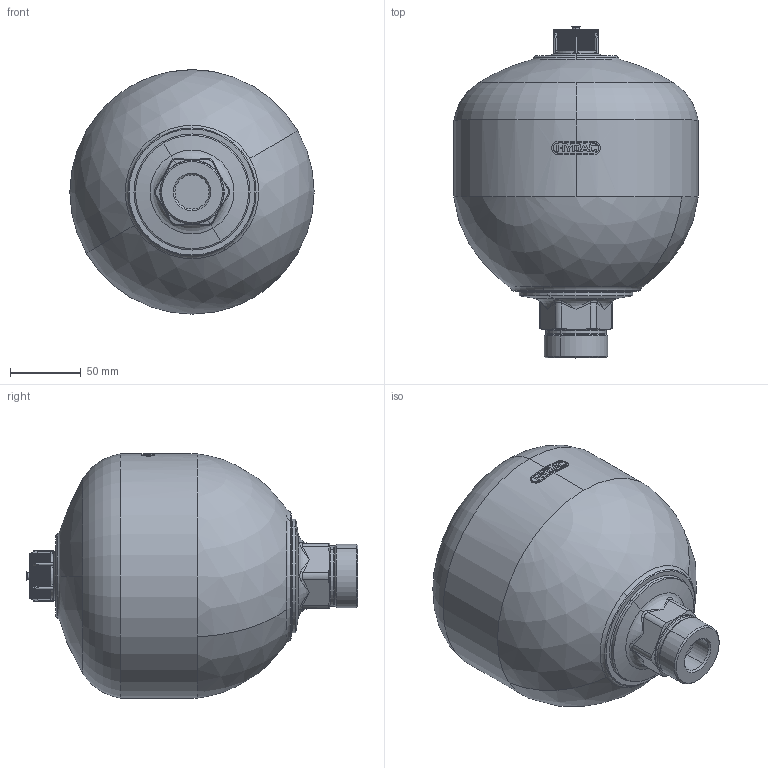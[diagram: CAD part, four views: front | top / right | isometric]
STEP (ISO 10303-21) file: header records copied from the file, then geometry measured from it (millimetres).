
FILE_DESCRIPTION (( 'STEP AP214' ), '1' );
FILE_NAME ('HYDAC-SBO330_2E1_AB.STEP', '2020-02-08T01:08:07', ( '' ), ( '' ), 'SwSTEP 2.0', 'SolidWorks 2019', '' );
FILE_SCHEMA (( 'AUTOMOTIVE_DESIGN' ));
Length unit declared in the file: millimetre
Products named in the file (1): HYDAC-SBO330_2E1_AB
Bounding box: 172.5 x 234.5 x 172.5 mm (x, y, z)
Volume: 3179772.1 mm3; surface area: 118213.8 mm2
Topology: 1 solids, 3 shells, 734 faces, 2064 edges, 1336 vertices
Faces by surface type: plane 514, cylinder 101, bspline 44, torus 41, cone 30, sphere 4
Entity records: 28408 total; most frequent: CARTESIAN_POINT 7532, ORIENTED_EDGE 4100, DIRECTION 3514, EDGE_CURVE 2050, LINE 1470, VECTOR 1470, VERTEX_POINT 1336, AXIS2_PLACEMENT_3D 1022
